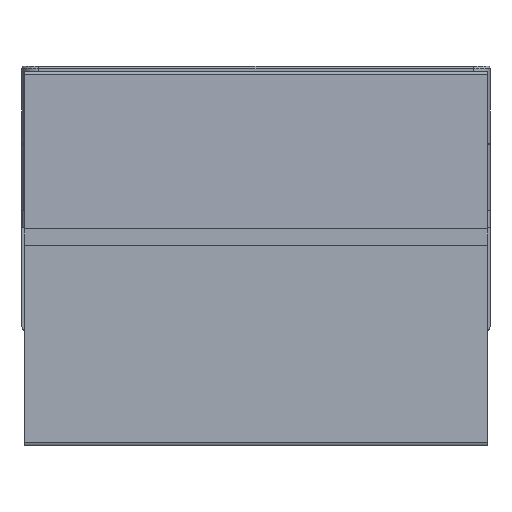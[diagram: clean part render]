
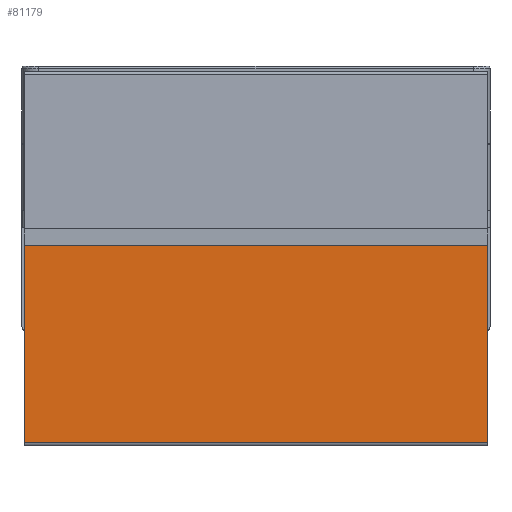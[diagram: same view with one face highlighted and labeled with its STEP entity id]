
A CAD part, front view. The second image highlights one B-rep face of the part: STEP entity #81179.
In plain terms, the highlighted planar face has unit normal (0, -1, -0.004).
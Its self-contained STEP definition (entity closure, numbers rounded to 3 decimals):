
#2596=LINE('',#108581,#11284);
#2694=LINE('',#108963,#11382);
#2736=LINE('',#109244,#11424);
#3543=LINE('',#112557,#12231);
#11284=VECTOR('',#90288,9.6);
#11382=VECTOR('',#90576,4.085);
#11424=VECTOR('',#90738,4.085);
#12231=VECTOR('',#92361,9.6);
#20159=PLANE('',#85729);
#23946=FACE_OUTER_BOUND('',#28213,.T.);
#28213=EDGE_LOOP('',(#55748,#55749,#55750,#55751));
#33828=VERTEX_POINT('',#108575);
#33830=VERTEX_POINT('',#108579);
#34019=VERTEX_POINT('',#108961);
#34070=VERTEX_POINT('',#109243);
#41587=EDGE_CURVE('',#33830,#33828,#2596,.T.);
#41779=EDGE_CURVE('',#33830,#34019,#2694,.T.);
#41860=EDGE_CURVE('',#33828,#34070,#2736,.T.);
#42912=EDGE_CURVE('',#34070,#34019,#3543,.T.);
#55748=ORIENTED_EDGE('',*,*,#41779,.T.);
#55749=ORIENTED_EDGE('',*,*,#42912,.F.);
#55750=ORIENTED_EDGE('',*,*,#41860,.F.);
#55751=ORIENTED_EDGE('',*,*,#41587,.F.);
#81179=ADVANCED_FACE('',(#23946),#20159,.T.);
#85729=AXIS2_PLACEMENT_3D('',#112556,#92359,#92360);
#90288=DIRECTION('',(1.,0.,0.));
#90576=DIRECTION('',(0.,0.004,-1.));
#90738=DIRECTION('',(0.,0.004,-1.));
#92359=DIRECTION('center_axis',(0.,-1.,
-0.004));
#92360=DIRECTION('ref_axis',(0.,-0.004,1.));
#92361=DIRECTION('',(-1.,0.,0.));
#108575=CARTESIAN_POINT('',(4.8,-9.171,-2.503));
#108579=CARTESIAN_POINT('',(-4.8,-9.171,-2.503));
#108581=CARTESIAN_POINT('',(2.4,-9.171,-2.503));
#108961=CARTESIAN_POINT('',(-4.8,-9.155,-6.589));
#108963=CARTESIAN_POINT('',(-4.8,-9.159,-5.584));
#109243=CARTESIAN_POINT('',(4.8,-9.155,-6.589));
#109244=CARTESIAN_POINT('',(4.8,-9.171,-2.503));
#112556=CARTESIAN_POINT('Origin',(4.8,-9.155,-6.589));
#112557=CARTESIAN_POINT('',(4.8,-9.155,-6.589));
